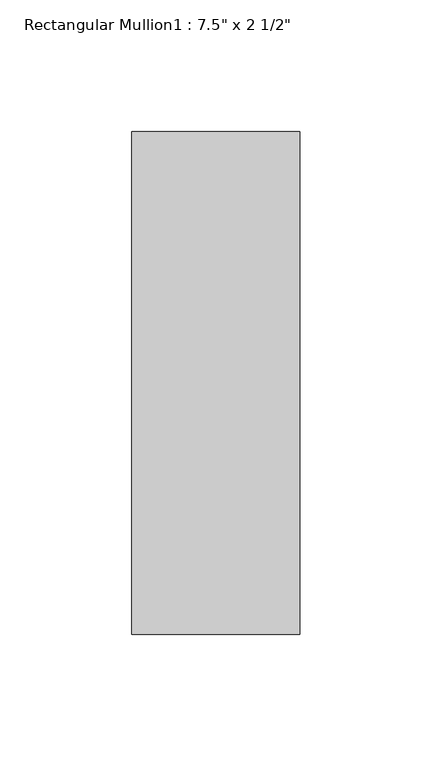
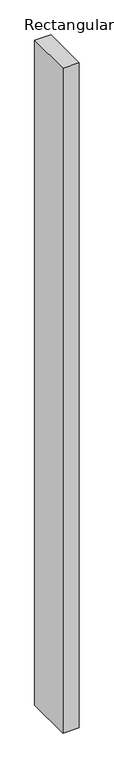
"""IFC4 building model written with IfcOpenShell, lengths in millimetres: member geometry."""

from ifc_helpers import new_model, si_unit, frame, origin, place, context, project, spatial, polyline, outline, extrude, source, transform, mapped, element, save


def member_3104e3fb(model_context):
    return source(origin(), model_context, "Body", "SweptSolid", [
        extrude(outline(polyline([(0.0, 165.1), (0.0, -25.4), (-63.5, -25.4), (-63.5, 165.1), (0.0, 165.1)])), frame((0.0, 0.0, -2743.2), z_axis=(0.0, 0.0, 1.0), x_axis=(1.0, 0.0, 0.0)), (0.0, 0.0, 1.0), 2743.2),
    ])


if __name__ == "__main__":
    model = new_model("IFC4")
    model_context = context("Model", 3, world=origin())
    ifc_project = project(units=[si_unit("LENGTHUNIT", "METRE", prefix="MILLI")], contexts=[model_context])
    site = spatial("IfcSite", under=ifc_project)
    building = spatial("IfcBuilding", under=site)
    placement = place(None, origin())
    member_shape = member_3104e3fb(model_context)
    element("IfcMember", 1, ObjectType="Rectangular Mullion1 : 7.5\" x 2 1/2\"", at=placement, inside=building, context=model_context, shape_type="MappedRepresentation", body=[
        mapped(member_shape, transform((0.0, 0.0, 0.0), x_axis=(1.0, 0.0, 0.0), y_axis=(0.0, 1.0, 0.0), z_axis=(0.0, 0.0, 1.0))),
    ])
    save(model, "model.ifc")
